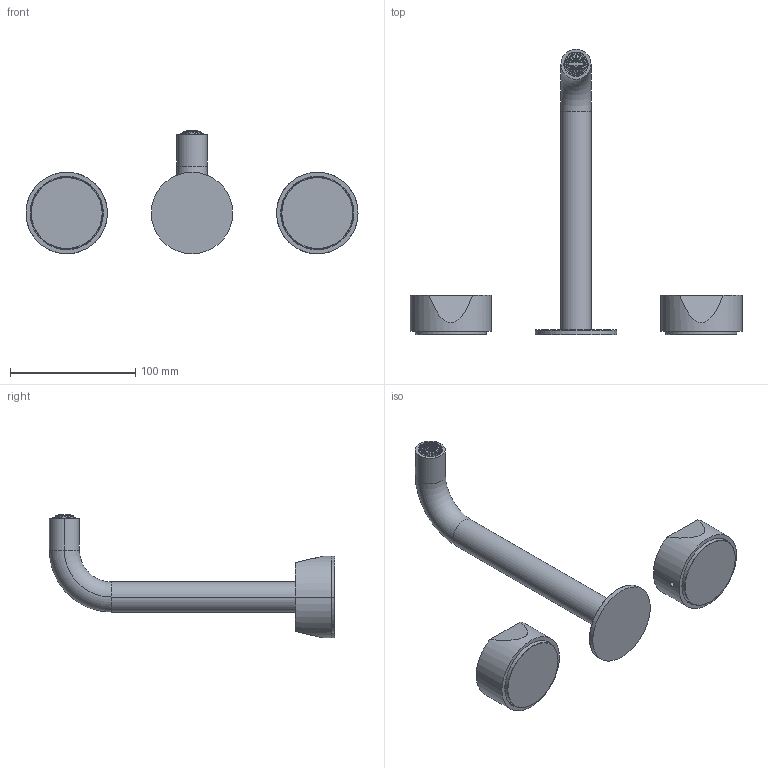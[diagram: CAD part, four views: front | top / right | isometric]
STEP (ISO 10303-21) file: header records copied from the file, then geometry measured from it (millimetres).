
FILE_DESCRIPTION((''),'2;1');
FILE_NAME('27000A813B000CX0_SW0001','2024-05-31T09:26:20',('matteo.follador'),(''),'CREO PARAMETRIC BY PTC INC, 2022424','CREO PARAMETRIC BY PTC INC, 2022424','');
FILE_SCHEMA(('AUTOMOTIVE_DESIGN { 1 0 10303 214 1 1 1 1 }'));
Length unit declared in the file: millimetre
Products named in the file (1): 27000A813B000CX0_SW0001
Bounding box: 265 x 227.8 x 98.57 mm (x, y, z)
Volume: 298581.3 mm3; surface area: 65761.9 mm2
Topology: 4 solids, 5 shells, 350 faces, 886 edges, 579 vertices
Faces by surface type: plane 260, cylinder 56, torus 18, cone 12, sphere 4
Entity records: 12390 total; most frequent: CARTESIAN_POINT 2841, DIRECTION 1961, ORIENTED_EDGE 1768, EDGE_CURVE 884, AXIS2_PLACEMENT_3D 730, VERTEX_POINT 579, VECTOR 498, LINE 498
